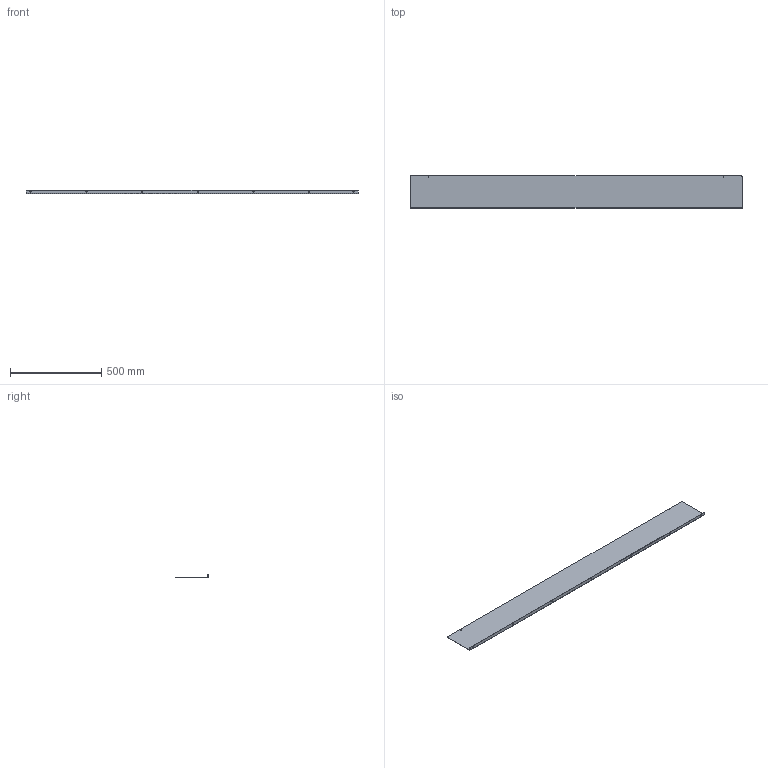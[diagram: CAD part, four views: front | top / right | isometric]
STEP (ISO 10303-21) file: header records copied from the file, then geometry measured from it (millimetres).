
FILE_DESCRIPTION((''),'2;1');
FILE_NAME('C:\Vault_Workspace\Inventor_Dwg\Inv-1\1100BA\WEBSITE\1100BA8072.stp','2015-02-02T15:14:41',('MichaelA'),(''),'Autodesk Inventor 2012','Autodesk Inventor 2012','');
FILE_SCHEMA(('AUTOMOTIVE_DESIGN { 1 0 10303 214 1 1 1 1 }'));
Length unit declared in the file: inch
Products named in the file (1): 1100BA-MASTER
Bounding box: 1816.1 x 177.8 x 19.05 mm (x, y, z)
Volume: 493816.4 mm3; surface area: 712836.6 mm2
Topology: 1 solids, 1 shells, 27 faces, 67 edges, 42 vertices
Faces by surface type: cylinder 15, plane 12
Full cylindrical faces by diameter (mm): 4.496 x2, 7.137 x7
Entity records: 826 total; most frequent: DIRECTION 144, CARTESIAN_POINT 128, ORIENTED_EDGE 116, AXIS2_PLACEMENT_3D 58, EDGE_CURVE 58, EDGE_LOOP 54, VERTEX_POINT 42, CIRCLE 30
